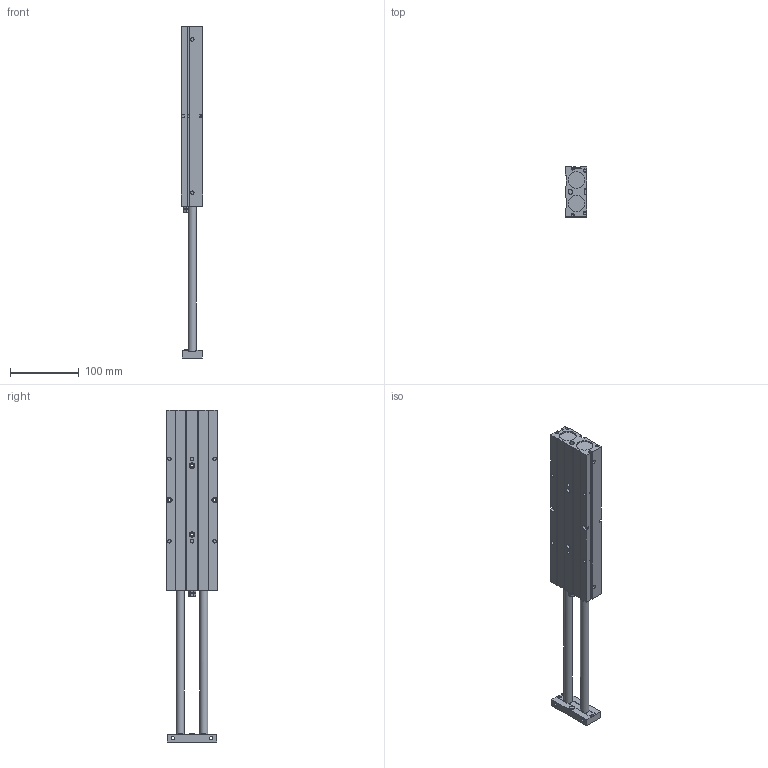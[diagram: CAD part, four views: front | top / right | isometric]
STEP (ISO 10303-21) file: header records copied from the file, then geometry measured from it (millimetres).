
FILE_DESCRIPTION((''),'2;1');
FILE_NAME('I:\3D電子目錄\氣缸\TD\TD25\TD25\TD25x200.stp','2007-08-06T09:52:26',('Administrator'),(''),'Autodesk Inventor 2008','Autodesk Inventor 2008','');
FILE_SCHEMA(('AUTOMOTIVE_DESIGN { 1 0 10303 214 1 1 1 1 }'));
Length unit declared in the file: millimetre
Products named in the file (1): TD25X200
Bounding box: 31 x 73 x 483 mm (x, y, z)
Volume: 614934.4 mm3; surface area: 101664.3 mm2
Topology: 1 solids, 3 shells, 197 faces, 494 edges, 324 vertices
Faces by surface type: plane 132, cylinder 52, cone 7, bspline 4, torus 2
Full cylindrical faces by diameter (mm): 4 x2, 4.5 x4, 5 x10, 7 x2, 8 x4, 10 x2, 11 x2, 12 x4, 24 x4
Entity records: 6021 total; most frequent: CARTESIAN_POINT 1449, DIRECTION 915, ORIENTED_EDGE 878, EDGE_CURVE 439, VERTEX_POINT 314, AXIS2_PLACEMENT_3D 312, VECTOR 291, LINE 291
